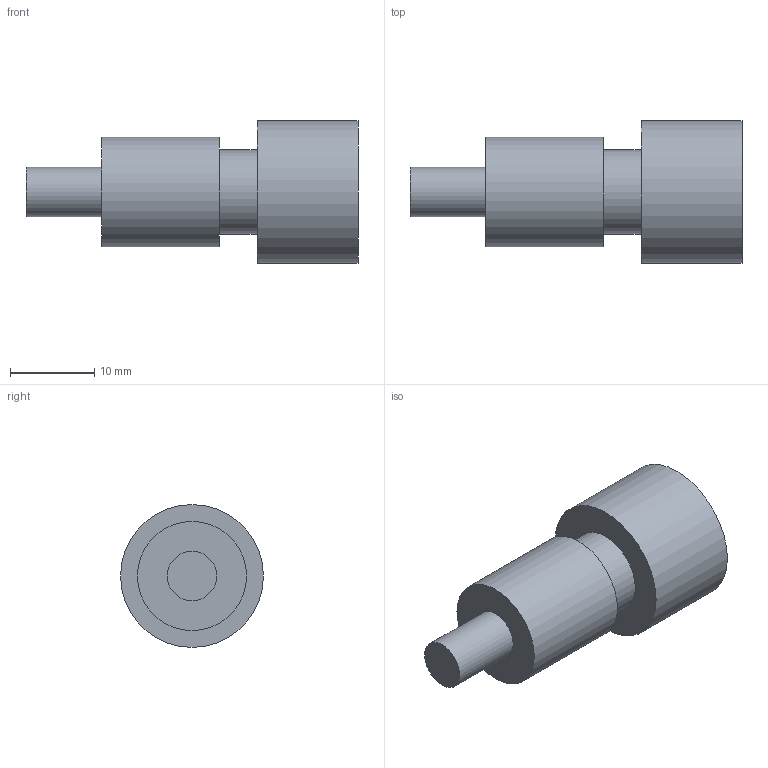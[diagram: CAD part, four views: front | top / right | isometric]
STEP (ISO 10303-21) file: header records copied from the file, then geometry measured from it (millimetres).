
FILE_DESCRIPTION(('Open CASCADE Model'),'2;1');
FILE_NAME('Open CASCADE Shape Model','2026-10-16T00:24:49',('Author'),( 'Open CASCADE'),'Open CASCADE STEP processor 7.9','Open CASCADE 7.9' ,'Unknown');
FILE_SCHEMA(('AUTOMOTIVE_DESIGN { 1 0 10303 214 1 1 1 1 }'));
Length unit declared in the file: millimetre
Products named in the file (1): Open CASCADE STEP translator 7.9 3
Bounding box: 39.5 x 17 x 17 mm (x, y, z)
Volume: 5181.5 mm3; surface area: 2083.2 mm2
Topology: 1 solids, 1 shells, 9 faces, 12 edges, 8 vertices
Faces by surface type: plane 5, cylinder 4
Full cylindrical faces by diameter (mm): 5.9 x1, 10 x1, 13 x1, 17 x1
Entity records: 360 total; most frequent: DIRECTION 64, CARTESIAN_POINT 54, ORIENTED_EDGE 24, PCURVE 24, DEFINITIONAL_REPRESENTATION 24, LINE 20, VECTOR 20, AXIS2_PLACEMENT_3D 18
